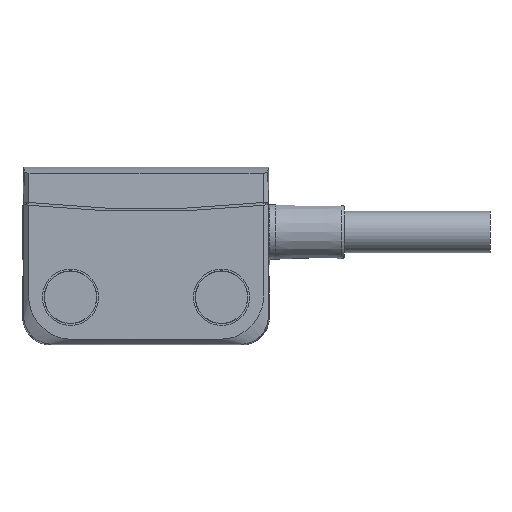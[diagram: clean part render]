
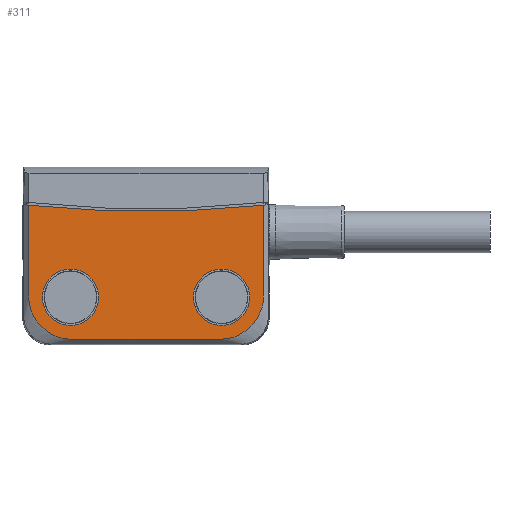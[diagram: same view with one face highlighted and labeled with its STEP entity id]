
A CAD part, front view. The second image highlights one B-rep face of the part: STEP entity #311.
In plain terms, the highlighted planar face has unit normal (0, -1, 0).
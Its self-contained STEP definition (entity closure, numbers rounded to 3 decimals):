
#210=PLANE('',#1640);
#251=FACE_BOUND('',#497,.T.);
#252=FACE_BOUND('',#498,.T.);
#253=FACE_BOUND('',#499,.T.);
#311=ADVANCED_FACE('',(#251,#252,#253),#210,.T.);
#497=EDGE_LOOP('',(#751));
#498=EDGE_LOOP('',(#752,#753,#754,#755,#756,#757,#758,#759,#760,#761,#762,
#763));
#499=EDGE_LOOP('',(#764));
#618=CIRCLE('',#1606,160.);
#630=CIRCLE('',#1638,4.1);
#631=CIRCLE('',#1639,4.1);
#751=ORIENTED_EDGE('',*,*,#1325,.F.);
#752=ORIENTED_EDGE('',*,*,#1263,.F.);
#753=ORIENTED_EDGE('',*,*,#1326,.T.);
#754=ORIENTED_EDGE('',*,*,#1327,.T.);
#755=ORIENTED_EDGE('',*,*,#1328,.T.);
#756=ORIENTED_EDGE('',*,*,#1329,.T.);
#757=ORIENTED_EDGE('',*,*,#1330,.T.);
#758=ORIENTED_EDGE('',*,*,#1331,.T.);
#759=ORIENTED_EDGE('',*,*,#1332,.T.);
#760=ORIENTED_EDGE('',*,*,#1333,.T.);
#761=ORIENTED_EDGE('',*,*,#1334,.T.);
#762=ORIENTED_EDGE('',*,*,#1335,.T.);
#763=ORIENTED_EDGE('',*,*,#1336,.T.);
#764=ORIENTED_EDGE('',*,*,#1337,.F.);
#1104=VERTEX_POINT('',#2055);
#1105=VERTEX_POINT('',#2057);
#1160=VERTEX_POINT('',#2492);
#1161=VERTEX_POINT('',#2497);
#1162=VERTEX_POINT('',#2502);
#1163=VERTEX_POINT('',#2507);
#1164=VERTEX_POINT('',#2512);
#1165=VERTEX_POINT('',#2517);
#1166=VERTEX_POINT('',#2522);
#1167=VERTEX_POINT('',#2527);
#1168=VERTEX_POINT('',#2532);
#1169=VERTEX_POINT('',#2537);
#1170=VERTEX_POINT('',#2542);
#1171=VERTEX_POINT('',#2548);
#1263=EDGE_CURVE('',#1104,#1105,#618,.T.);
#1325=EDGE_CURVE('',#1160,#1160,#630,.T.);
#1326=EDGE_CURVE('',#1104,#1161,#1510,.T.);
#1327=EDGE_CURVE('',#1161,#1162,#1511,.T.);
#1328=EDGE_CURVE('',#1162,#1163,#1512,.T.);
#1329=EDGE_CURVE('',#1163,#1164,#1513,.T.);
#1330=EDGE_CURVE('',#1164,#1165,#1514,.T.);
#1331=EDGE_CURVE('',#1165,#1166,#1515,.T.);
#1332=EDGE_CURVE('',#1166,#1167,#1516,.T.);
#1333=EDGE_CURVE('',#1167,#1168,#1517,.T.);
#1334=EDGE_CURVE('',#1168,#1169,#1518,.T.);
#1335=EDGE_CURVE('',#1169,#1170,#1519,.T.);
#1336=EDGE_CURVE('',#1170,#1105,#1520,.T.);
#1337=EDGE_CURVE('',#1171,#1171,#631,.T.);
#1510=B_SPLINE_CURVE_WITH_KNOTS('',3,(#2493,#2494,#2495,#2496),
 .UNSPECIFIED.,.F.,.F.,(4,4),(0.,1.),.UNSPECIFIED.);
#1511=B_SPLINE_CURVE_WITH_KNOTS('',3,(#2498,#2499,#2500,#2501),
 .UNSPECIFIED.,.F.,.F.,(4,4),(0.,1.),.UNSPECIFIED.);
#1512=B_SPLINE_CURVE_WITH_KNOTS('',3,(#2503,#2504,#2505,#2506),
 .UNSPECIFIED.,.F.,.F.,(4,4),(0.,1.),.UNSPECIFIED.);
#1513=B_SPLINE_CURVE_WITH_KNOTS('',3,(#2508,#2509,#2510,#2511),
 .UNSPECIFIED.,.F.,.F.,(4,4),(0.,1.),.UNSPECIFIED.);
#1514=B_SPLINE_CURVE_WITH_KNOTS('',3,(#2513,#2514,#2515,#2516),
 .UNSPECIFIED.,.F.,.F.,(4,4),(0.,1.),.UNSPECIFIED.);
#1515=B_SPLINE_CURVE_WITH_KNOTS('',3,(#2518,#2519,#2520,#2521),
 .UNSPECIFIED.,.F.,.F.,(4,4),(0.,1.),.UNSPECIFIED.);
#1516=B_SPLINE_CURVE_WITH_KNOTS('',3,(#2523,#2524,#2525,#2526),
 .UNSPECIFIED.,.F.,.F.,(4,4),(0.,1.),.UNSPECIFIED.);
#1517=B_SPLINE_CURVE_WITH_KNOTS('',3,(#2528,#2529,#2530,#2531),
 .UNSPECIFIED.,.F.,.F.,(4,4),(0.,1.),.UNSPECIFIED.);
#1518=B_SPLINE_CURVE_WITH_KNOTS('',3,(#2533,#2534,#2535,#2536),
 .UNSPECIFIED.,.F.,.F.,(4,4),(0.,1.),.UNSPECIFIED.);
#1519=B_SPLINE_CURVE_WITH_KNOTS('',3,(#2538,#2539,#2540,#2541),
 .UNSPECIFIED.,.F.,.F.,(4,4),(0.,1.),.UNSPECIFIED.);
#1520=B_SPLINE_CURVE_WITH_KNOTS('',3,(#2543,#2544,#2545,#2546),
 .UNSPECIFIED.,.F.,.F.,(4,4),(0.,1.),.UNSPECIFIED.);
#1606=AXIS2_PLACEMENT_3D('',#2056,#1736,#1737);
#1638=AXIS2_PLACEMENT_3D('',#2491,#1800,#1801);
#1639=AXIS2_PLACEMENT_3D('',#2547,#1802,#1803);
#1640=AXIS2_PLACEMENT_3D('',#2549,#1804,#1805);
#1736=DIRECTION('',(0.,-1.,0.));
#1737=DIRECTION('',(-1.,0.,0.));
#1800=DIRECTION('',(0.,-1.,0.));
#1801=DIRECTION('',(1.,0.,0.));
#1802=DIRECTION('',(0.,-1.,0.));
#1803=DIRECTION('',(1.,0.,0.));
#1804=DIRECTION('',(0.,-1.,0.));
#1805=DIRECTION('',(-1.,0.,0.));
#2055=CARTESIAN_POINT('',(-17.1,-6.5,20.401));
#2056=CARTESIAN_POINT('',(0.,-6.5,179.484));
#2057=CARTESIAN_POINT('',(17.1,-6.5,20.401));
#2491=CARTESIAN_POINT('',(11.,-6.5,7.));
#2492=CARTESIAN_POINT('',(15.1,-6.5,7.));
#2493=CARTESIAN_POINT('',(-17.1,-6.5,20.401));
#2494=CARTESIAN_POINT('',(-17.1,-6.5,16.01));
#2495=CARTESIAN_POINT('',(-17.1,-6.5,11.619));
#2496=CARTESIAN_POINT('',(-17.1,-6.5,7.228));
#2497=CARTESIAN_POINT('',(-17.1,-6.5,7.228));
#2498=CARTESIAN_POINT('',(-17.1,-6.5,7.228));
#2499=CARTESIAN_POINT('',(-17.1,-6.5,7.152));
#2500=CARTESIAN_POINT('',(-17.1,-6.5,7.076));
#2501=CARTESIAN_POINT('',(-17.1,-6.5,7.));
#2502=CARTESIAN_POINT('',(-17.1,-6.5,7.));
#2503=CARTESIAN_POINT('',(-17.1,-6.5,7.));
#2504=CARTESIAN_POINT('',(-17.1,-6.5,6.996));
#2505=CARTESIAN_POINT('',(-17.1,-6.5,6.991));
#2506=CARTESIAN_POINT('',(-17.1,-6.5,6.987));
#2507=CARTESIAN_POINT('',(-17.1,-6.5,6.987));
#2508=CARTESIAN_POINT('',(-17.1,-6.5,6.987));
#2509=CARTESIAN_POINT('',(-17.092,-6.5,3.785));
#2510=CARTESIAN_POINT('',(-14.204,-6.5,0.901));
#2511=CARTESIAN_POINT('',(-11.,-6.5,0.9));
#2512=CARTESIAN_POINT('',(-11.,-6.5,0.9));
#2513=CARTESIAN_POINT('',(-11.,-6.5,0.9));
#2514=CARTESIAN_POINT('',(-10.993,-6.5,0.9));
#2515=CARTESIAN_POINT('',(-10.986,-6.5,0.9));
#2516=CARTESIAN_POINT('',(-10.979,-6.5,0.9));
#2517=CARTESIAN_POINT('',(-10.979,-6.5,0.9));
#2518=CARTESIAN_POINT('',(-10.979,-6.5,0.9));
#2519=CARTESIAN_POINT('',(-3.66,-6.5,0.9));
#2520=CARTESIAN_POINT('',(3.66,-6.5,0.9));
#2521=CARTESIAN_POINT('',(10.979,-6.5,0.9));
#2522=CARTESIAN_POINT('',(10.979,-6.5,0.9));
#2523=CARTESIAN_POINT('',(10.979,-6.5,0.9));
#2524=CARTESIAN_POINT('',(10.986,-6.5,0.9));
#2525=CARTESIAN_POINT('',(10.993,-6.5,0.9));
#2526=CARTESIAN_POINT('',(11.,-6.5,0.9));
#2527=CARTESIAN_POINT('',(11.,-6.5,0.9));
#2528=CARTESIAN_POINT('',(11.,-6.5,0.9));
#2529=CARTESIAN_POINT('',(14.199,-6.5,0.901));
#2530=CARTESIAN_POINT('',(17.09,-6.5,3.779));
#2531=CARTESIAN_POINT('',(17.1,-6.5,6.981));
#2532=CARTESIAN_POINT('',(17.1,-6.5,6.981));
#2533=CARTESIAN_POINT('',(17.1,-6.5,6.981));
#2534=CARTESIAN_POINT('',(17.1,-6.5,6.987));
#2535=CARTESIAN_POINT('',(17.1,-6.5,6.994));
#2536=CARTESIAN_POINT('',(17.1,-6.5,7.));
#2537=CARTESIAN_POINT('',(17.1,-6.5,7.));
#2538=CARTESIAN_POINT('',(17.1,-6.5,7.));
#2539=CARTESIAN_POINT('',(17.1,-6.5,7.076));
#2540=CARTESIAN_POINT('',(17.1,-6.5,7.152));
#2541=CARTESIAN_POINT('',(17.1,-6.5,7.228));
#2542=CARTESIAN_POINT('',(17.1,-6.5,7.228));
#2543=CARTESIAN_POINT('',(17.1,-6.5,7.228));
#2544=CARTESIAN_POINT('',(17.1,-6.5,11.619));
#2545=CARTESIAN_POINT('',(17.1,-6.5,16.01));
#2546=CARTESIAN_POINT('',(17.1,-6.5,20.401));
#2547=CARTESIAN_POINT('',(-11.,-6.5,7.));
#2548=CARTESIAN_POINT('',(-6.9,-6.5,7.));
#2549=CARTESIAN_POINT('',(0.,-6.5,179.484));
